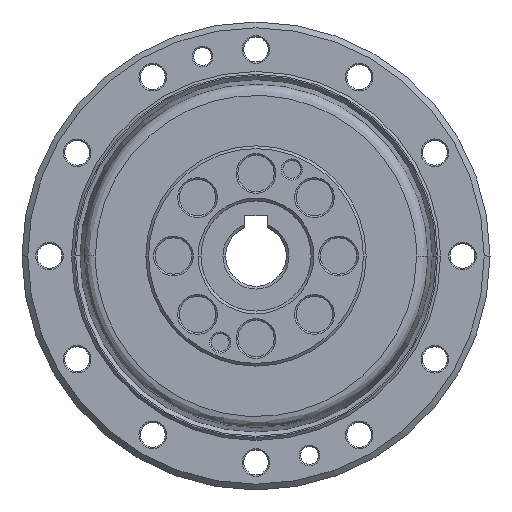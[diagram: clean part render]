
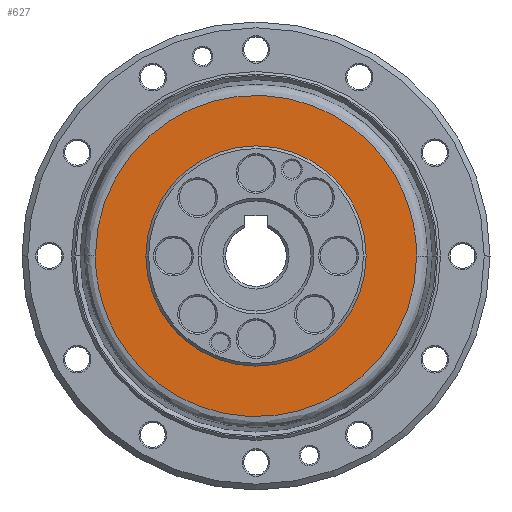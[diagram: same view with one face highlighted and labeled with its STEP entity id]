
A CAD part, left-side view. The second image highlights one B-rep face of the part: STEP entity #627.
In plain terms, the highlighted planar face has unit normal (-1, 0, 0).
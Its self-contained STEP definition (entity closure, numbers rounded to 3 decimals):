
#627=ADVANCED_FACE('NONE',(#1346,#1347),#1348,.F.);
#1346=FACE_OUTER_BOUND('',#2260,.T.);
#1347=FACE_BOUND('',#2261,.T.);
#1348=PLANE('',#2262);
#2260=EDGE_LOOP('',(#3966,#3967));
#2261=EDGE_LOOP('',(#3968,#3969));
#2262=AXIS2_PLACEMENT_3D('',#3970,#3971,#3972);
#3966=ORIENTED_EDGE('',*,*,#4744,.F.);
#3967=ORIENTED_EDGE('',*,*,#5359,.F.);
#3968=ORIENTED_EDGE('',*,*,#4951,.F.);
#3969=ORIENTED_EDGE('',*,*,#5355,.F.);
#3970=CARTESIAN_POINT('',(-31.5,0.0,-29.17));
#3971=DIRECTION('',(1.0,0.0,0.));
#3972=DIRECTION('',(0.,0.0,-1.0));
#4744=EDGE_CURVE('NONE',#5577,#5578,#5579,.T.);
#4951=EDGE_CURVE('NONE',#5915,#5916,#5917,.T.);
#5355=EDGE_CURVE('NONE',#5916,#5915,#6504,.T.);
#5359=EDGE_CURVE('NONE',#5578,#5577,#6508,.T.);
#5577=VERTEX_POINT('NONE',#6859);
#5578=VERTEX_POINT('NONE',#6860);
#5579=(B_SPLINE_CURVE(3,(#6862,#6863,#6864,#6865),.UNSPECIFIED.,.F.,.F.)B_SPLINE_CURVE_WITH_KNOTS((4,4),(0.75,1.25),.UNSPECIFIED.)RATIONAL_B_SPLINE_CURVE((1.0,0.333,0.333,1.0))BOUNDED_CURVE()REPRESENTATION_ITEM('')GEOMETRIC_REPRESENTATION_ITEM()CURVE());
#5915=VERTEX_POINT('NONE',#7415);
#5916=VERTEX_POINT('NONE',#7416);
#5917=CIRCLE('',#7417,20.0);
#6504=CIRCLE('',#8267,20.0);
#6508=(B_SPLINE_CURVE(3,(#8272,#8273,#8274,#8275),.UNSPECIFIED.,.F.,.F.)B_SPLINE_CURVE_WITH_KNOTS((4,4),(0.25,0.75),.UNSPECIFIED.)RATIONAL_B_SPLINE_CURVE((1.0,0.333,0.333,1.0))BOUNDED_CURVE()REPRESENTATION_ITEM('')GEOMETRIC_REPRESENTATION_ITEM()CURVE());
#6859=CARTESIAN_POINT('',(-31.5,-29.17,0.));
#6860=CARTESIAN_POINT('',(-31.5,29.17,0.));
#6862=CARTESIAN_POINT('',(-31.5,-29.17,0.));
#6863=CARTESIAN_POINT('',(-31.5,-29.17,-58.34));
#6864=CARTESIAN_POINT('',(-31.5,29.17,-58.34));
#6865=CARTESIAN_POINT('',(-31.5,29.17,0.));
#7415=CARTESIAN_POINT('',(-31.5,0.0,20.0));
#7416=CARTESIAN_POINT('',(-31.5,0.,-20.0));
#7417=AXIS2_PLACEMENT_3D('',#8945,#8946,#8947);
#8267=AXIS2_PLACEMENT_3D('',#9529,#9530,#9531);
#8272=CARTESIAN_POINT('',(-31.5,29.17,0.));
#8273=CARTESIAN_POINT('',(-31.5,29.17,58.34));
#8274=CARTESIAN_POINT('',(-31.5,-29.17,58.34));
#8275=CARTESIAN_POINT('',(-31.5,-29.17,0.));
#8945=CARTESIAN_POINT('',(-31.5,0.0,0.));
#8946=DIRECTION('',(-1.0,0.0,0.));
#8947=DIRECTION('',(0.,0.0,1.0));
#9529=CARTESIAN_POINT('',(-31.5,0.0,0.));
#9530=DIRECTION('',(-1.0,0.0,0.));
#9531=DIRECTION('',(0.,0.0,1.0));
